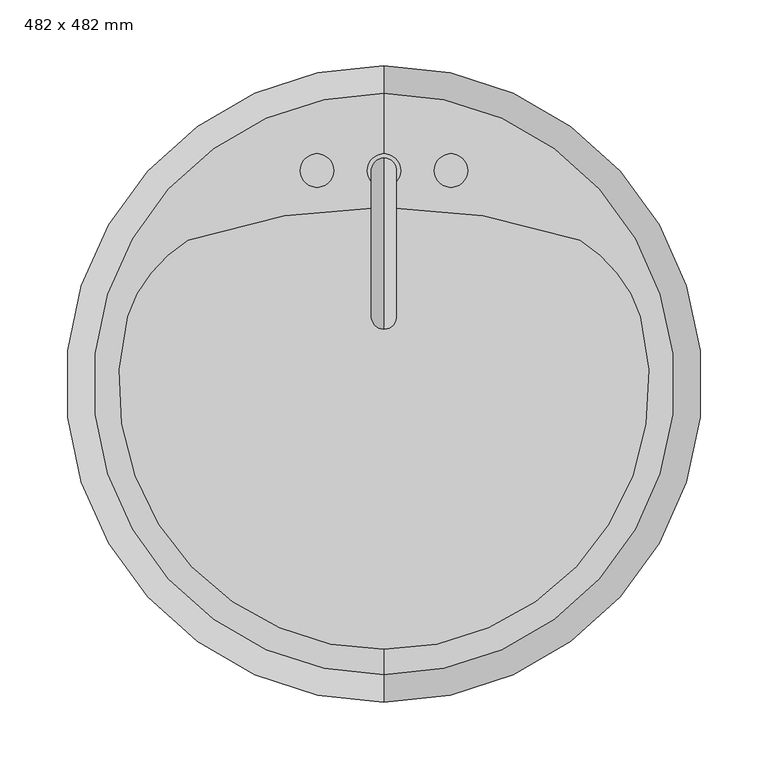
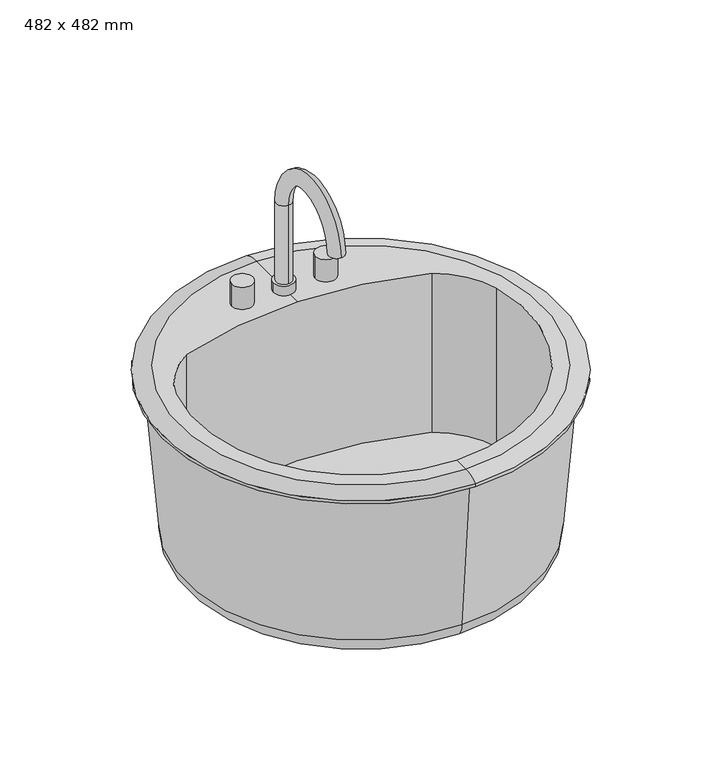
"""IFC4 building model written with IfcOpenShell, lengths in millimetres: flow terminal geometry, Lavabo con encimera redonda-3D : 482 x 482 mm."""

from ifc_helpers import new_model, si_unit, point, frame, frame_2d, origin, place, context, project, spatial, polyline, circle_curve, ellipse_curve, trimmed, segment, composite_curve, outline, extrude, source, transform, mapped, element, save
from ifc_brep_helpers import plane_surface, cylinder_surface, revolved_surface, advanced_brep


def flow_terminal_482_x_482_mm_0851827a(model_context):
    return source(origin(), model_context, "Body", "SolidModel", [
        advanced_brep(
        [(83.9517406, 247.0927185, 771.7602909), (109.3517406, 247.0927185, 771.7602909), (96.6517406, 237.5677185, 771.7602909), (96.6517406, 256.6177185, 771.7602909), (83.9517406, 247.0927185, 759.525), (109.3517406, 247.0927185, 759.525), (96.6517406, 237.5677185, 872.2375), (96.6517406, 256.6177185, 872.2375), (96.6517406, 145.7775038, 872.2375), (96.6517406, 126.7275038, 872.2375)],
        [
            (0, 1, circle_curve(frame((96.6517406, 247.0927185, 771.7602909), z_axis=(0.0, 0.0, 1.0), x_axis=(1.0, 0.0, 0.0)), 12.7)),
            (1, 0, circle_curve(frame((96.6517406, 247.0927185, 771.7602909), z_axis=(0.0, 0.0, 1.0), x_axis=(1.0, 0.0, 0.0)), 12.7)),
            (2, 3, circle_curve(frame((96.6517406, 247.0927185, 771.7602909), z_axis=(0.0, 0.0, -1.0), x_axis=(0.0, 1.0, 0.0)), 9.525)),
            (3, 2, circle_curve(frame((96.6517406, 247.0927185, 771.7602909), z_axis=(0.0, 0.0, -1.0), x_axis=(0.0, 1.0, 0.0)), 9.525)),
            (4, 5, circle_curve(frame((96.6517406, 247.0927185, 759.525), z_axis=(0.0, 0.0, -1.0), x_axis=(1.0, 0.0, 0.0)), 12.7)),
            (5, 4, circle_curve(frame((96.6517406, 247.0927185, 759.525), z_axis=(0.0, 0.0, -1.0), x_axis=(1.0, 0.0, 0.0)), 12.7)),
            (0, 4),
            (5, 1),
            (6, 7, circle_curve(frame((96.6517406, 247.0927185, 872.2375), z_axis=(0.0, 0.0, -1.0), x_axis=(0.0, 1.0, 0.0)), 9.525)),
            (7, 3),
            (2, 6),
            (7, 6, circle_curve(frame((96.6517406, 247.0927185, 872.2375), z_axis=(0.0, 0.0, -1.0), x_axis=(0.0, 1.0, 0.0)), 9.525)),
            (8, 9, circle_curve(frame((96.6517406, 136.2525038, 872.2375), z_axis=(0.0, 0.0, -1.0), x_axis=(0.0, -1.0, 0.0)), 9.525)),
            (9, 8, circle_curve(frame((96.6517406, 136.2525038, 872.2375), z_axis=(0.0, 0.0, -1.0), x_axis=(0.0, -1.0, 0.0)), 9.525)),
            (6, 8, circle_curve(frame((96.6517406, 191.6726112, 872.2375), z_axis=(1.0, 0.0, 0.0), x_axis=(0.0, 1.0, 0.0)), 45.8951073)),
            (9, 7, circle_curve(frame((96.6517406, 191.6726112, 872.2375), z_axis=(-1.0, 0.0, 0.0), x_axis=(0.0, 1.0, 0.0)), 64.9451073)),
        ],
        [
            plane_surface(frame((109.3517406, 247.0927185, 771.7602909), z_axis=(0.0, 0.0, 1.0), x_axis=(0.0, 1.0, 0.0))),
            plane_surface(frame((109.3517406, 247.0927185, 759.525), z_axis=(0.0, 0.0, -1.0), x_axis=(0.0, -1.0, 0.0))),
            cylinder_surface(frame((96.6517406, 247.0927185, 759.525), z_axis=(0.0, 0.0, 1.0), x_axis=(1.0, 0.0, 0.0)), 12.7),
            cylinder_surface(frame((96.6517406, 247.0927185, 759.525), z_axis=(0.0, 0.0, -1.0), x_axis=(0.0, 1.0, 0.0)), 9.525),
            plane_surface(frame((96.6517406, 191.6726112, 872.2375), z_axis=(0.0, 0.0, -1.0), x_axis=(0.0, -1.0, 0.0))),
            revolved_surface(trimmed(ellipse_curve(frame((96.6517406, 247.0927185, 872.2375), z_axis=(0.0, 0.0, -1.0), x_axis=(0.0, 1.0, 0.0)), 9.525, 9.525), [point((96.6517406, 237.5677185, 872.2375))], [point((96.6517406, 256.6177185, 872.2375))], True, "CARTESIAN"), (96.6517406, 191.6726112, 872.2375), (1.0, 0.0, 0.0)),
            revolved_surface(trimmed(ellipse_curve(frame((96.6517406, 247.0927185, 872.2375), z_axis=(0.0, 0.0, -1.0), x_axis=(0.0, 1.0, 0.0)), 9.525, 9.525), [point((96.6517406, 256.6177185, 872.2375))], [point((96.6517406, 237.5677185, 872.2375))], True, "CARTESIAN"), (96.6517406, 191.6726112, 872.2375), (1.0, 0.0, 0.0)),
        ],
        [
            (0, [[1, 2], [3, 4]]),
            (1, [[5, 6]]),
            (2, [[-1, 7, -6, 8]]),
            (2, [[-2, -8, -5, -7]]),
            (3, [[9, 10, -3, 11]]),
            (3, [[12, -11, -4, -10]]),
            (4, [[13, 14]]),
            (5, [[-9, 15, -14, 16]]),
            (6, [[-12, -16, -13, -15]]),
        ],
    ),
        extrude(outline(composite_curve([segment(trimmed(circle_curve(frame_2d((45.8517406, 247.0927185)), 12.7), [point((33.1517406, 247.0927185))], [point((58.5517406, 247.0927185))], False, "CARTESIAN"), True, "CONTINUOUS"), segment(trimmed(circle_curve(frame_2d((45.8517406, 247.0927185)), 12.7), [point((58.5517406, 247.0927185))], [point((33.1517406, 247.0927185))], False, "CARTESIAN"), True, "CONTINUOUS")], self_intersect=False)), frame((0.0, 0.0, 759.525), z_axis=(0.0, 0.0, 1.0), x_axis=(1.0, 0.0, 0.0)), (0.0, 0.0, 1.0), 28.575),
        extrude(outline(composite_curve([segment(trimmed(circle_curve(frame_2d((147.4517406, 247.0927185)), 12.7), [point((134.7517406, 247.0927185))], [point((160.1517406, 247.0927185))], False, "CARTESIAN"), True, "CONTINUOUS"), segment(trimmed(circle_curve(frame_2d((147.4517406, 247.0927185)), 12.7), [point((160.1517406, 247.0927185))], [point((134.7517406, 247.0927185))], False, "CARTESIAN"), True, "CONTINUOUS")], self_intersect=False)), frame((0.0, 0.0, 759.525), z_axis=(0.0, 0.0, 1.0), x_axis=(1.0, 0.0, 0.0)), (0.0, 0.0, 1.0), 28.575),
        advanced_brep(
        [(96.6517406, -135.3870093, 759.525), (96.6517406, 305.7224463, 759.525), (96.6517406, 326.4677185, 753.96875), (96.6517406, -156.1322815, 753.96875), (96.6517406, -116.2405705, 759.525), (-98.1703414, 136.2525038, 759.525), (-52.1534933, 194.0861398, 759.525), (96.6517406, 219.2662048, 759.525), (245.4569744, 194.0861398, 759.525), (291.4738225, 136.2525038, 759.525), (96.6517406, -107.1264028, 534.1), (96.6517406, 277.4618398, 534.1), (96.6517406, 85.1677185, 534.1), (96.6517406, -127.6827361, 555.2842611), (96.6517406, 298.0181731, 555.2842611), (96.6517406, -144.2260315, 750.0), (96.6517406, 314.5614685, 750.0), (96.6517406, -156.1322815, 750.0), (96.6517406, 326.4677185, 750.0), (245.4569744, 194.0861398, 555.2842611), (-52.1534933, 194.0861398, 555.2842611), (-98.1703414, 136.2525038, 555.2842611), (291.4738225, 136.2525038, 555.2842611)],
        [
            (0, 1, circle_curve(frame((96.6517406, 85.1677185, 759.525), z_axis=(0.0, 0.0, -1.0), x_axis=(0.0, 1.0, 0.0)), 220.5547278)),
            (1, 2, circle_curve(frame((96.6517406, 309.4374616, 731.889434), z_axis=(-1.0, 0.0, 0.0), x_axis=(0.0, 1.0, 0.0)), 27.8841505)),
            (2, 3, circle_curve(frame((96.6517406, 85.1677185, 753.96875), z_axis=(0.0, 0.0, 1.0), x_axis=(0.0, 1.0, 0.0)), 241.3)),
            (3, 0, circle_curve(frame((96.6517406, -139.1020246, 731.889434), z_axis=(-1.0, 0.0, 0.0), x_axis=(0.0, -1.0, 0.0)), 27.8841505)),
            (1, 0, circle_curve(frame((96.6517406, 85.1677185, 759.525), z_axis=(0.0, 0.0, -1.0), x_axis=(0.0, 1.0, 0.0)), 220.5547278)),
            (3, 2, circle_curve(frame((96.6517406, 85.1677185, 753.96875), z_axis=(0.0, 0.0, 1.0), x_axis=(0.0, 1.0, 0.0)), 241.3)),
            (0, 4),
            (4, 5, circle_curve(frame((96.6517406, 85.1677185, 759.525), z_axis=(0.0, 0.0, -1.0), x_axis=(1.0, 0.0, 0.0)), 201.408289)),
            (5, 6, circle_curve(frame((1.3689689, 104.2755165, 759.525), z_axis=(0.0, 0.0, -1.0), x_axis=(1.0, 0.0, 0.0)), 104.5495194)),
            (6, 7, circle_curve(frame((96.6517406, -233.0168462, 759.525), z_axis=(0.0, 0.0, -1.0), x_axis=(1.0, 0.0, 0.0)), 452.283051)),
            (7, 1),
            (7, 8, circle_curve(frame((96.6517406, -233.0168462, 759.525), z_axis=(0.0, 0.0, -1.0), x_axis=(1.0, 0.0, 0.0)), 452.283051)),
            (8, 9, circle_curve(frame((191.9345122, 104.2755165, 759.525), z_axis=(0.0, 0.0, -1.0), x_axis=(1.0, 0.0, 0.0)), 104.5495194)),
            (9, 4, circle_curve(frame((96.6517406, 85.1677185, 759.525), z_axis=(0.0, 0.0, -1.0), x_axis=(1.0, 0.0, 0.0)), 201.408289)),
            (10, 11, circle_curve(frame((96.6517406, 85.1677185, 534.1), z_axis=(0.0, 0.0, -1.0), x_axis=(0.0, 1.0, 0.0)), 192.2941213)),
            (11, 12),
            (12, 10),
            (11, 10, circle_curve(frame((96.6517406, 85.1677185, 534.1), z_axis=(0.0, 0.0, -1.0), x_axis=(0.0, 1.0, 0.0)), 192.2941213)),
            (10, 13, circle_curve(frame((96.6517406, -107.1264028, 554.6656396), z_axis=(-1.0, 0.0, 0.0), x_axis=(0.0, -1.0, 0.0)), 20.5656396)),
            (13, 14, circle_curve(frame((96.6517406, 85.1677185, 555.2842611), z_axis=(0.0, 0.0, -1.0), x_axis=(0.0, 1.0, 0.0)), 212.8504546)),
            (14, 11, circle_curve(frame((96.6517406, 277.4618398, 554.6656396), z_axis=(-1.0, 0.0, 0.0), x_axis=(0.0, 1.0, 0.0)), 20.5656396)),
            (14, 13, circle_curve(frame((96.6517406, 85.1677185, 555.2842611), z_axis=(0.0, 0.0, -1.0), x_axis=(0.0, 1.0, 0.0)), 212.8504546)),
            (13, 15),
            (15, 16, circle_curve(frame((96.6517406, 85.1677185, 750.0), z_axis=(0.0, 0.0, -1.0), x_axis=(0.0, 1.0, 0.0)), 229.39375)),
            (16, 14),
            (16, 15, circle_curve(frame((96.6517406, 85.1677185, 750.0), z_axis=(0.0, 0.0, -1.0), x_axis=(0.0, 1.0, 0.0)), 229.39375)),
            (15, 17),
            (17, 18, circle_curve(frame((96.6517406, 85.1677185, 750.0), z_axis=(0.0, 0.0, -1.0), x_axis=(0.0, 1.0, 0.0)), 241.3)),
            (18, 16),
            (18, 17, circle_curve(frame((96.6517406, 85.1677185, 750.0), z_axis=(0.0, 0.0, -1.0), x_axis=(0.0, 1.0, 0.0)), 241.3)),
            (2, 18),
            (17, 3),
            (19, 20, circle_curve(frame((96.6517406, -233.0168462, 555.2842611), z_axis=(0.0, 0.0, 1.0), x_axis=(1.0, 0.0, 0.0)), 452.283051)),
            (20, 21, circle_curve(frame((1.3689689, 104.2755165, 555.2842611), z_axis=(0.0, 0.0, 1.0), x_axis=(1.0, 0.0, 0.0)), 104.5495194)),
            (21, 22, circle_curve(frame((96.6517406, 85.1677185, 555.2842611), z_axis=(0.0, 0.0, 1.0), x_axis=(1.0, 0.0, 0.0)), 201.408289)),
            (22, 19, circle_curve(frame((191.9345122, 104.2755165, 555.2842611), z_axis=(0.0, 0.0, 1.0), x_axis=(1.0, 0.0, 0.0)), 104.5495194)),
            (19, 8),
            (6, 20),
            (5, 21),
            (9, 22),
        ],
        [
            revolved_surface(trimmed(ellipse_curve(frame((96.6517406, 309.4374616, 731.889434), z_axis=(1.0, 0.0, 0.0), x_axis=(0.0, 1.0, 0.0)), 27.8841505, 27.8841505), [point((96.6517406, 326.4677185, 753.96875))], [point((96.6517406, 305.7224463, 759.525))], True, "CARTESIAN"), (96.6517406, 85.1677185, 759.525), (0.0, 0.0, 1.0)),
            plane_surface(frame((96.6517406, 85.1677185, 759.525), z_axis=(0.0, 0.0, 1.0), x_axis=(0.0, 1.0, 0.0))),
            plane_surface(frame((96.6517406, 85.1677185, 534.1), z_axis=(0.0, 0.0, -1.0), x_axis=(0.0, 1.0, 0.0))),
            revolved_surface(trimmed(ellipse_curve(frame((96.6517406, 277.4618398, 554.6656396), z_axis=(1.0, 0.0, 0.0), x_axis=(0.0, 1.0, 0.0)), 20.5656396, 20.5656396), [point((96.6517406, 277.4618398, 534.1))], [point((96.6517406, 298.0181731, 555.2842611))], True, "CARTESIAN"), (96.6517406, 85.1677185, 759.525), (0.0, 0.0, 1.0)),
            revolved_surface(polyline([(96.6517406, 298.0181731, 555.2842611), (96.6517406, 314.5614685, 750.0)]), (96.6517406, 85.1677185, 759.525), (0.0, 0.0, 1.0)),
            plane_surface(frame((96.6517406, 85.1677185, 750.0), z_axis=(0.0, 0.0, -1.0), x_axis=(0.0, 1.0, 0.0))),
            cylinder_surface(frame((96.6517406, 85.1677185, 759.525), z_axis=(0.0, 0.0, 1.0), x_axis=(0.0, 1.0, 0.0)), 241.3),
            plane_surface(frame((548.9347916, -233.0168462, 555.2842611), z_axis=(0.0, 0.0, 1.0), x_axis=(0.0, -1.0, 0.0))),
            revolved_surface(polyline([(548.9347916, -233.0168462, 759.525), (548.9347916, -233.0168462, 555.2842611)]), (96.6517406, -233.0168462, 555.2842611), (0.0, 0.0, 1.0)),
            revolved_surface(polyline([(105.91848829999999, 104.2755165, 759.525), (105.91848829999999, 104.2755165, 555.2842611)]), (1.3689689, 104.2755165, 555.2842611), (0.0, 0.0, 1.0)),
            revolved_surface(polyline([(298.0600296, 85.1677185, 759.525), (298.0600296, 85.1677185, 555.2842611)]), (96.6517406, 85.1677185, 555.2842611), (0.0, 0.0, 1.0)),
            revolved_surface(polyline([(296.4840316, 104.2755165, 759.525), (296.4840316, 104.2755165, 555.2842611)]), (191.9345122, 104.2755165, 555.2842611), (0.0, 0.0, 1.0)),
        ],
        [
            (0, [[1, 2, 3, 4]]),
            (0, [[-2, 5, -4, 6]]),
            (1, [[-1, 7, 8, 9, 10, 11]]),
            (1, [[-5, -11, 12, 13, 14, -7]]),
            (2, [[15, 16, 17]]),
            (2, [[-16, 18, -17]]),
            (3, [[-15, 19, 20, 21]]),
            (3, [[-18, -21, 22, -19]]),
            (4, [[-20, 23, 24, 25]]),
            (4, [[-22, -25, 26, -23]]),
            (5, [[-24, 27, 28, 29]]),
            (5, [[-26, -29, 30, -27]]),
            (6, [[-3, 31, -28, 32]]),
            (6, [[-6, -32, -30, -31]]),
            (7, [[33, 34, 35, 36]]),
            (8, [[-33, 37, -12, -10, 38]]),
            (9, [[-34, -38, -9, 39]]),
            (10, [[-35, -39, -8, -14, 40]]),
            (11, [[-36, -40, -13, -37]]),
        ],
    ),
    ])


if __name__ == "__main__":
    model = new_model("IFC4")
    model_context = context("Model", 3, world=origin())
    ifc_project = project(units=[si_unit("LENGTHUNIT", "METRE", prefix="MILLI")], contexts=[model_context])
    site = spatial("IfcSite", under=ifc_project)
    building = spatial("IfcBuilding", under=site)
    placement = place(None, origin())
    flow_terminal_482_x_482_mm_shape = flow_terminal_482_x_482_mm_0851827a(model_context)
    element("IfcFlowTerminal", 1, ObjectType="Lavabo con encimera redonda-3D : 482 x 482 mm", at=placement, inside=building, context=model_context, shape_type="MappedRepresentation", body=[
        mapped(flow_terminal_482_x_482_mm_shape, transform((0.0, 0.0, 0.0), x_axis=(1.0, 0.0, 0.0), y_axis=(0.0, 1.0, 0.0), z_axis=(0.0, 0.0, 1.0))),
    ])
    save(model, "model.ifc")
